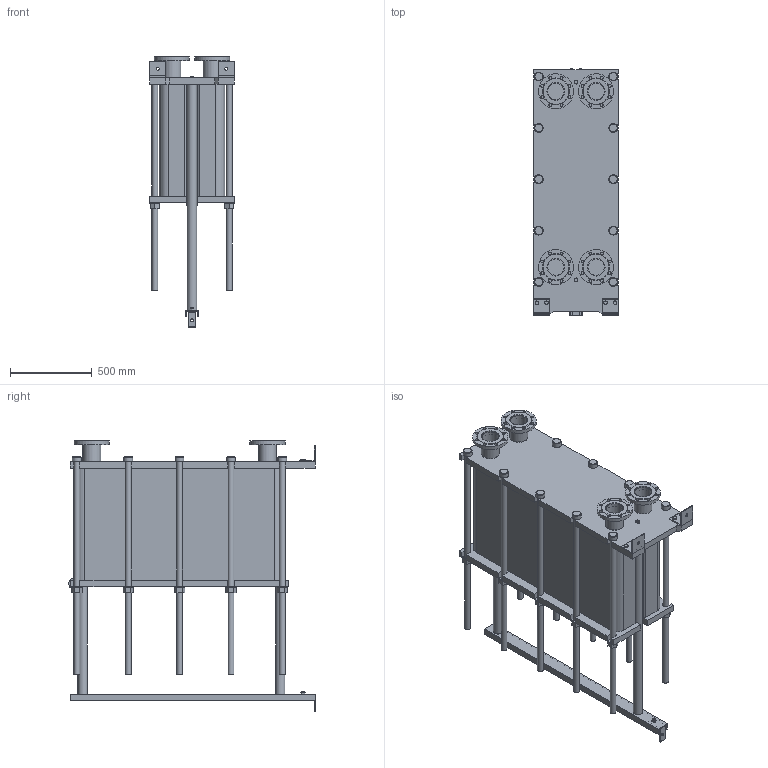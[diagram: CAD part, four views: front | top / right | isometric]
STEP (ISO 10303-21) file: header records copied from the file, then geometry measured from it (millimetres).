
FILE_DESCRIPTION(/* description */ (''),/* implementation_level */ '2;1');
FILE_NAME(/* name */ 'C:\Users\zhuro\Desktop\ENCO\TO\ЭН-04\ЭН-0,5-04-199-1.stp',/* time_stamp */ '2022-06-06T11:02:47+03:00',/* author */ ('zhuro'),/* organization */ (''),/* preprocessor_version */ 'ST-DEVELOPER v18.1',/* originating_system */ 'Autodesk Inventor 2022',/* authorisation */ '');
FILE_SCHEMA (('AUTOMOTIVE_DESIGN { 1 0 10303 214 3 1 1 }'));
Length unit declared in the file: millimetre
Products named in the file (1): ЭН-0,5-04-199-1
Bounding box: 520 x 1510 x 1659.5 mm (x, y, z)
Volume: 419642705.1 mm3; surface area: 10532281.3 mm2
Topology: 45 solids, 45 shells, 668 faces, 1611 edges, 1048 vertices
Faces by surface type: plane 457, cylinder 166, cone 39, torus 6
Full cylindrical faces by diameter (mm): 8 x4, 10 x2, 16 x8, 18 x35, 36 x25, 40 x2, 42 x1, 45 x4, 54 x10, 57 x2, 60 x10, 68 x2, 100 x4, 110 x8, 215 x4
Entity records: 23607 total; most frequent: CARTESIAN_POINT 7348, DIRECTION 3371, ORIENTED_EDGE 3142, EDGE_CURVE 1571, AXIS2_PLACEMENT_3D 1199, VERTEX_POINT 1044, LINE 973, VECTOR 973
